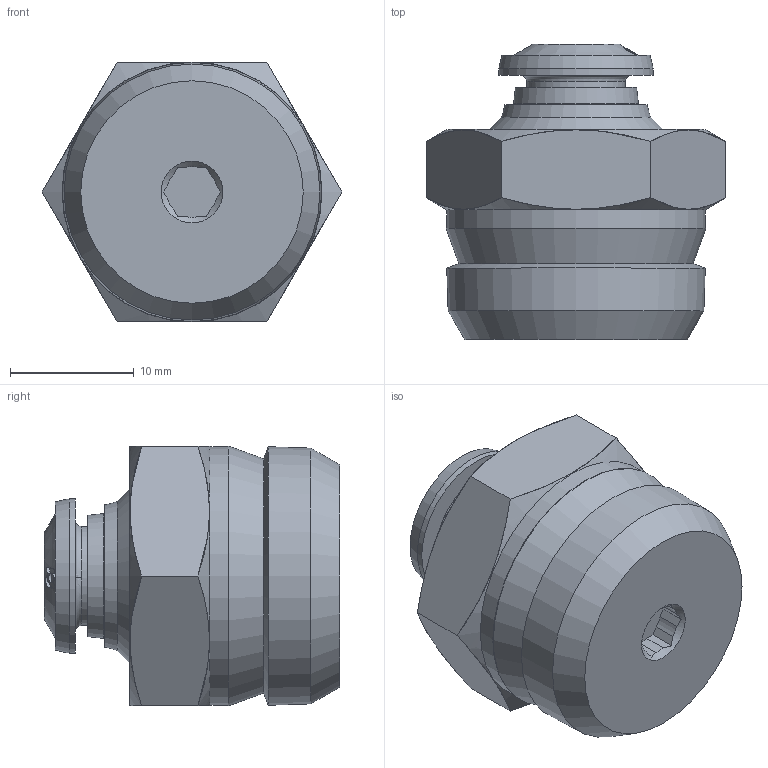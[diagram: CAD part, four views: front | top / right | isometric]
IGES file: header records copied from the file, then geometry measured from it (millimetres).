
Start section: SolidWorks IGES file using analytic representation for surfaces
Global section: file name: K:\Disegni Esecutivi\SERIE 57000\57.000-iges\57000_igs\5700000015A.IGS; native system: SolidWorks 2011; preprocessor: SolidWorks 2011; author: cad05; date: 120621.102403; units: millimetre
Bounding box: 24.25 x 23.9 x 21.03 mm (x, y, z)
Surface area: 2552.9 mm2 (no closed solid volume)
Topology: 0 solids, 0 shells, 127 faces, 1277 edges, 1249 vertices
Faces by surface type: bspline 82, revolution 45
